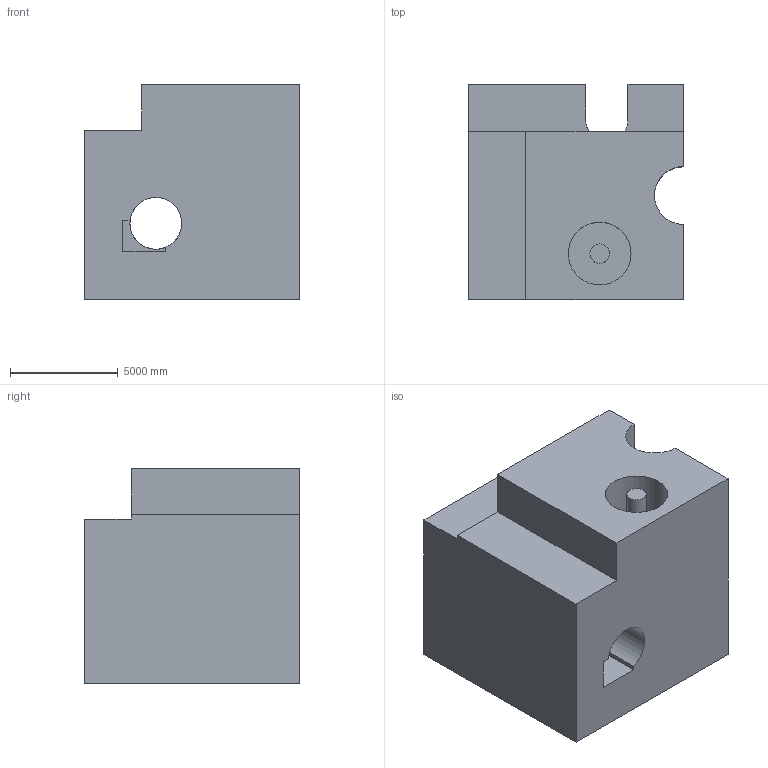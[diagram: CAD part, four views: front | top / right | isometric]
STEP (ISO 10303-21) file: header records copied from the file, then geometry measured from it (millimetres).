
FILE_DESCRIPTION (( 'STEP AP203' ), '1' );
FILE_NAME ('1605.STEP', '2022-08-18T16:06:29', ( 'user' ), ( '' ), 'SwSTEP 2.0', 'SolidWorks 2021', '' );
FILE_SCHEMA (( 'CONFIG_CONTROL_DESIGN' ));
Length unit declared in the file: centimetre
Products named in the file (1): 1605
Bounding box: 10000 x 10000 x 10000 mm (x, y, z)
Volume: 765227725900.9 mm3; surface area: 733447955.1 mm2
Topology: 1 solids, 1 shells, 31 faces, 81 edges, 54 vertices
Faces by surface type: plane 23, cylinder 8
Entity records: 1036 total; most frequent: CARTESIAN_POINT 167, DIRECTION 165, ORIENTED_EDGE 162, EDGE_CURVE 81, LINE 61, VECTOR 61, VERTEX_POINT 54, AXIS2_PLACEMENT_3D 52
